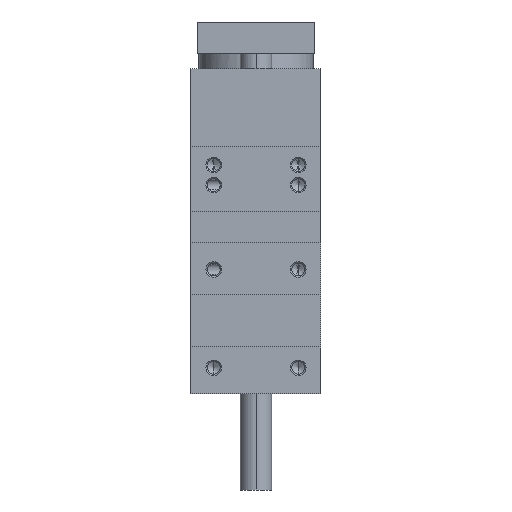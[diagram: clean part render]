
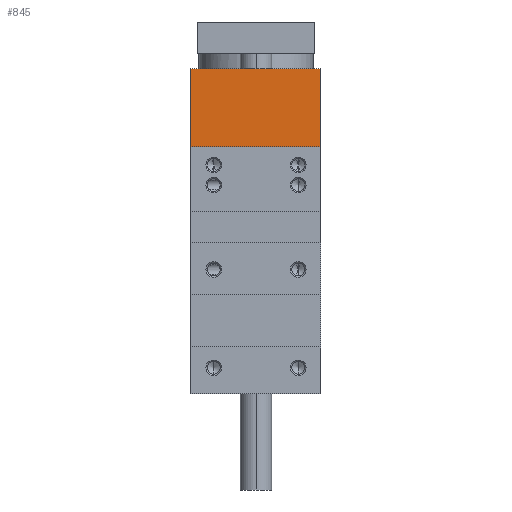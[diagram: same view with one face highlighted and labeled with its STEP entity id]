
A CAD part, left-side view. The second image highlights one B-rep face of the part: STEP entity #845.
In plain terms, the highlighted planar face has unit normal (-1, 0, 0).
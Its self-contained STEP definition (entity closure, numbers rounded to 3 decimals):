
#632 = VECTOR ( 'NONE', #3691, 1000. ) ;
#707 = DIRECTION ( 'NONE',  ( 1., 0., 0. ) ) ;
#845 = ADVANCED_FACE ( 'NONE', ( #8372 ), #6669, .F. ) ;
#944 = CARTESIAN_POINT ( 'NONE',  ( -48.2, -25., 0. ) ) ;
#1410 = VERTEX_POINT ( 'NONE', #5678 ) ;
#1668 = ORIENTED_EDGE ( 'NONE', *, *, #9267, .F. ) ;
#2006 = VERTEX_POINT ( 'NONE', #9001 ) ;
#2135 = VERTEX_POINT ( 'NONE', #10109 ) ;
#2848 = CARTESIAN_POINT ( 'NONE',  ( -48.2, 50., 49. ) ) ;
#3089 = ORIENTED_EDGE ( 'NONE', *, *, #9468, .F. ) ;
#3287 = DIRECTION ( 'NONE',  ( 0., 1., 0. ) ) ;
#3582 = LINE ( 'NONE', #2848, #6593 ) ;
#3649 = VERTEX_POINT ( 'NONE', #4924 ) ;
#3691 = DIRECTION ( 'NONE',  ( 0., -1., 0. ) ) ;
#3800 = DIRECTION ( 'NONE',  ( 0., -1., 0. ) ) ;
#4776 = CARTESIAN_POINT ( 'NONE',  ( -48.2, 25., 0. ) ) ;
#4905 = DIRECTION ( 'NONE',  ( 0., 0., -1. ) ) ;
#4924 = CARTESIAN_POINT ( 'NONE',  ( -48.2, -25., 49. ) ) ;
#5280 = CARTESIAN_POINT ( 'NONE',  ( -48.2, 50., 19. ) ) ;
#5282 = LINE ( 'NONE', #944, #7313 ) ;
#5678 = CARTESIAN_POINT ( 'NONE',  ( -48.2, -25., 19. ) ) ;
#5785 = EDGE_LOOP ( 'NONE', ( #8172, #9760, #1668, #3089 ) ) ;
#5833 = CARTESIAN_POINT ( 'NONE',  ( -48.2, 50., 19. ) ) ;
#6337 = AXIS2_PLACEMENT_3D ( 'NONE', #5833, #707, #3287 ) ;
#6515 = LINE ( 'NONE', #4776, #9429 ) ;
#6576 = DIRECTION ( 'NONE',  ( 0., 0., -1. ) ) ;
#6593 = VECTOR ( 'NONE', #3800, 1000. ) ;
#6669 = PLANE ( 'NONE',  #6337 ) ;
#6829 = EDGE_CURVE ( 'NONE', #2006, #2135, #6515, .T. ) ;
#7313 = VECTOR ( 'NONE', #4905, 1000. ) ;
#7976 = LINE ( 'NONE', #5280, #632 ) ;
#8172 = ORIENTED_EDGE ( 'NONE', *, *, #6829, .T. ) ;
#8196 = EDGE_CURVE ( 'NONE', #2135, #1410, #7976, .T. ) ;
#8372 = FACE_OUTER_BOUND ( 'NONE', #5785, .T. ) ;
#9001 = CARTESIAN_POINT ( 'NONE',  ( -48.2, 25., 49. ) ) ;
#9267 = EDGE_CURVE ( 'NONE', #3649, #1410, #5282, .T. ) ;
#9429 = VECTOR ( 'NONE', #6576, 1000. ) ;
#9468 = EDGE_CURVE ( 'NONE', #2006, #3649, #3582, .T. ) ;
#9760 = ORIENTED_EDGE ( 'NONE', *, *, #8196, .T. ) ;
#10109 = CARTESIAN_POINT ( 'NONE',  ( -48.2, 25., 19. ) ) ;
